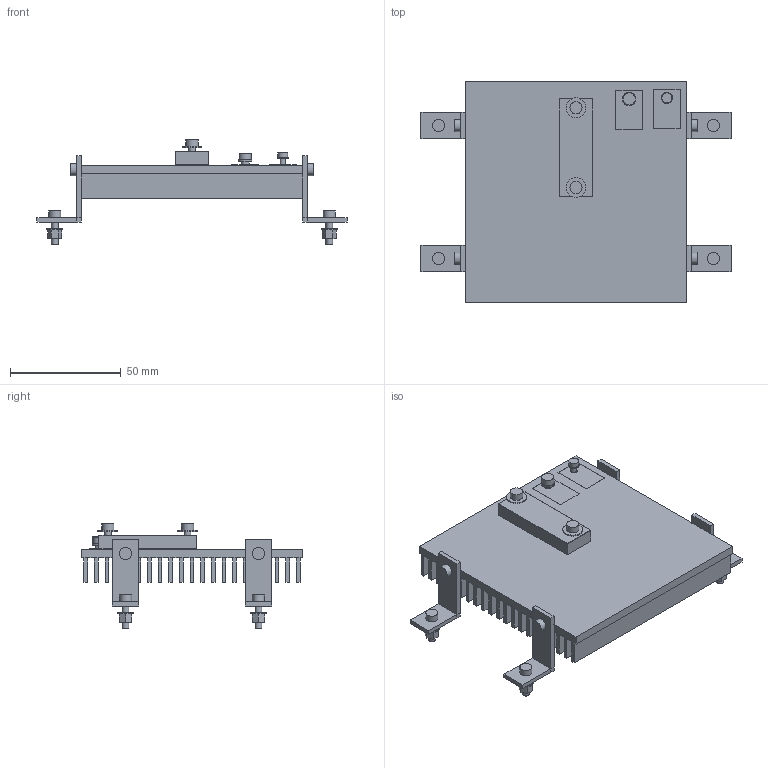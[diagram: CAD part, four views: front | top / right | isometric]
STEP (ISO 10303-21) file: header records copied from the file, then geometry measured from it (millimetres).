
FILE_DESCRIPTION(('Open CASCADE Model'),'2;1');
FILE_NAME('Open CASCADE Shape Model','2026-10-21T15:58:52',('Author'),( 'Open CASCADE'),'Open CASCADE STEP processor 7.9','Open CASCADE 7.9' ,'Unknown');
FILE_SCHEMA(('AUTOMOTIVE_DESIGN { 1 0 10303 214 1 1 1 1 }'));
Length unit declared in the file: millimetre
Products named in the file (34): 8c280b18-cd57-11f1-a252-f197ec47fad9; SK81_100; source_bar_15x44x6; source_insulating_TIM; Q401_mica; Q401_IB6; Q401_M3x6; Q402_mica; Q402_PA66washer; Q402_M2p5x6_PA66; bracket_42_40; support_M3_42_40; bracket_42_100; support_M3_42_100; bracket_142_40; support_M3_142_40; bracket_142_100; support_M3_142_100; barwasher_32.0; bar_M3x12_32.0; barwasher_68.0; bar_M3x12_68.0; foot_M3x12_30.0_40.0; foot_washer_30.0_40.0; foot_locknut_30.0_40.0; foot_M3x12_30.0_100.0; foot_washer_30.0_100.0; foot_locknut_30.0_100.0; foot_M3x12_154.0_40.0; foot_washer_154.0_40.0; foot_locknut_154.0_40.0; foot_M3x12_154.0_100.0; foot_washer_154.0_100.0; foot_locknut_154.0_100.0
Assembly tree (33 placements, depth 2):
  8c280b18-cd57-11f1-a252-f197ec47fad9
    SK81_100
    source_bar_15x44x6
    source_insulating_TIM
    Q401_mica
    Q401_IB6
    Q401_M3x6
    Q402_mica
    Q402_PA66washer
    Q402_M2p5x6_PA66
    bracket_42_40
    support_M3_42_40
    bracket_42_100
    support_M3_42_100
    bracket_142_40
    support_M3_142_40
    bracket_142_100
    support_M3_142_100
    barwasher_32.0
    bar_M3x12_32.0
    barwasher_68.0
    bar_M3x12_68.0
    foot_M3x12_30.0_40.0
    foot_washer_30.0_40.0
    foot_locknut_30.0_40.0
    foot_M3x12_30.0_100.0
    foot_washer_30.0_100.0
    foot_locknut_30.0_100.0
    foot_M3x12_154.0_40.0
    foot_washer_154.0_40.0
    foot_locknut_154.0_40.0
    foot_M3x12_154.0_100.0
    foot_washer_154.0_100.0
    foot_locknut_154.0_100.0
Bounding box: 140 x 100 x 47.1 mm (x, y, z)
Volume: 89544.5 mm3; surface area: 82231.2 mm2
Topology: 33 solids, 33 shells, 372 faces, 759 edges, 464 vertices
Faces by surface type: plane 305, cylinder 67
Full cylindrical faces by diameter (mm): 2.5 x2, 2.7 x1, 3 x22, 3.1 x3, 3.2 x6, 3.3 x2, 3.4 x10, 3.5 x1, 4.5 x1, 5 x1, 5.5 x11, 6 x1, 7 x4, 9 x2
Entity records: 20748 total; most frequent: CARTESIAN_POINT 3999, DIRECTION 3091, LINE 1989, VECTOR 1989, ORIENTED_EDGE 1518, PCURVE 1518, DEFINITIONAL_REPRESENTATION 1518, EDGE_CURVE 759
